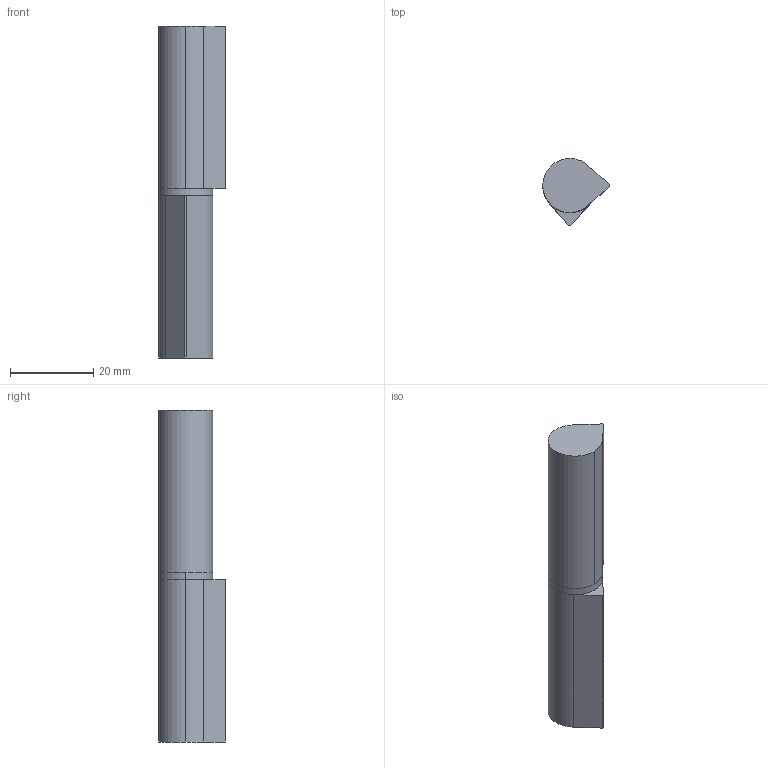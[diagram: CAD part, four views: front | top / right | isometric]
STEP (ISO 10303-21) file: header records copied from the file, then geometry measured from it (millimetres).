
FILE_DESCRIPTION (( 'STEP AP214' ), '1' );
FILE_NAME ('3.ST7-2.003.STEP', '2016-09-09T09:31:10', ( '' ), ( '' ), 'SwSTEP 2.0', 'SolidWorks 2015', '' );
FILE_SCHEMA (( 'AUTOMOTIVE_DESIGN' ));
Length unit declared in the file: millimetre
Products named in the file (4): 3.ST7-1.003.03_A; 3.ST7-1.003.02_A; 3.ST7-2.003.01_A; 3.ST7-2.003
Assembly tree (4 placements, depth 2):
  3.ST7-2.003
    3.ST7-2.003.01_A  x2
    3.ST7-1.003.02_A
    3.ST7-1.003.03_A
Bounding box: 16 x 16 x 79.8 mm (x, y, z)
Volume: 11112.7 mm3; surface area: 6799.8 mm2
Topology: 4 solids, 4 shells, 74 faces, 156 edges, 98 vertices
Faces by surface type: plane 34, cylinder 28, cone 12
Entity records: 1768 total; most frequent: DIRECTION 328, CARTESIAN_POINT 268, ORIENTED_EDGE 244, AXIS2_PLACEMENT_3D 139, EDGE_CURVE 122, VERTEX_POINT 79, EDGE_LOOP 73, CIRCLE 72
